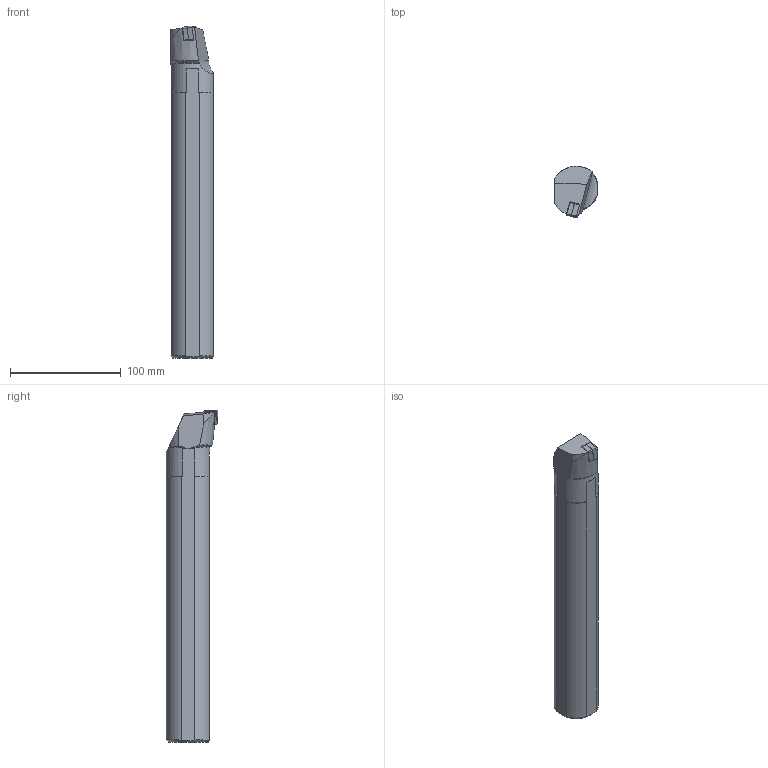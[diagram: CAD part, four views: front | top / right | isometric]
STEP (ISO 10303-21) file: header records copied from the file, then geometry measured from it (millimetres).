
FILE_DESCRIPTION(/* description */ (''),/* implementation_level */ '2;1');
FILE_NAME(/* name */ 'A40T-MCLNR-12-HAAS_210825.stp',/* time_stamp */ '2021-09-30T17:06:00+09:00',/* author */ (''),/* organization */ (''),/* preprocessor_version */ 'ST-DEVELOPER v15',/* originating_system */ 'SIEMENS PLM Software NX 8.5',/* authorisation */ '');
FILE_SCHEMA (('AP203_CONFIGURATION_CONTROLLED_3D_DESIGN_OF_MECHANICAL_PARTS_AND_ASSEMBLIES_MIM_LF { 1 0 10303 403 2 1 2}'));
Length unit declared in the file: millimetre
Products named in the file (1): userF2984F2A8mce
Bounding box: 38.5 x 46.93 x 299.99 mm (x, y, z)
Volume: 353867.4 mm3; surface area: 39884.4 mm2
Topology: 3 solids, 3 shells, 62 faces, 155 edges, 100 vertices
Faces by surface type: plane 27, cylinder 19, cone 14, torus 1, bspline 1
Full cylindrical faces by diameter (mm): 5.16 x1, 7.34 x1, 8 x1
Entity records: 1999 total; most frequent: CARTESIAN_POINT 465, DIRECTION 297, ORIENTED_EDGE 292, EDGE_CURVE 146, AXIS2_PLACEMENT_3D 114, VERTEX_POINT 98, EDGE_LOOP 74, LINE 69
